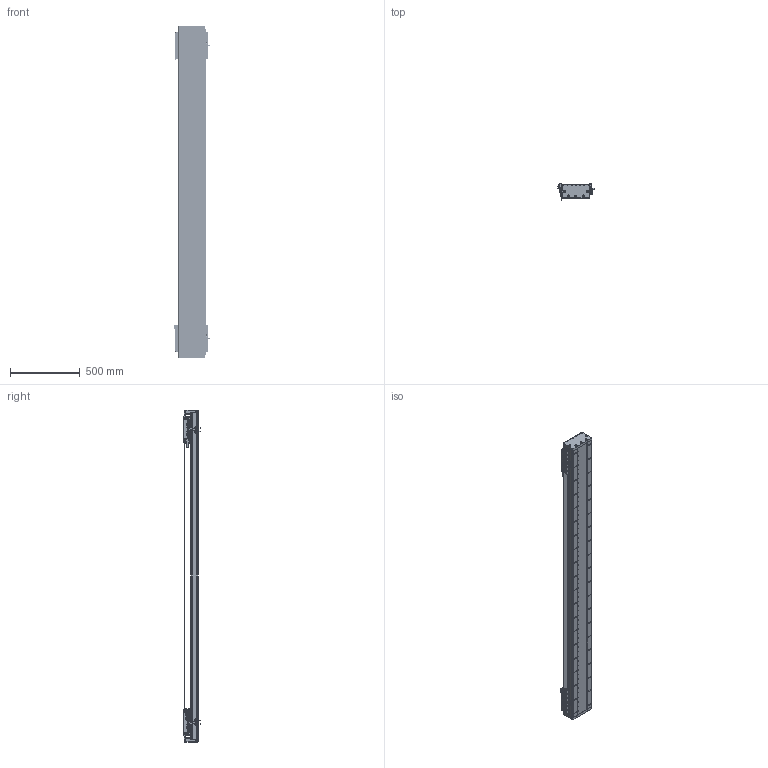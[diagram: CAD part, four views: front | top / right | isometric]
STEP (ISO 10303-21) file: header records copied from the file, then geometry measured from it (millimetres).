
FILE_DESCRIPTION (( 'STEP AP203' ), '1' );
FILE_NAME ('DA-C195-2-C2-T1880-C010-0.2 眻盄萇儂.STEP', '2025-08-14T02:08:00', ( '' ), ( '' ), 'SwSTEP 2.0', 'SolidWorks 2019', '' );
FILE_SCHEMA (( 'CONFIG_CONTROL_DESIGN' ));
Length unit declared in the file: millimetre
Products named in the file (19): DA95-HXJ-00 遣喳砎蝶-1; IU-CU195-L 菁釱絳寢-1; MS200 棠掑喜S315-T1740-1; LMT黍杅芛-1; CU195-C2賑輸-俋楷-1; DA195詩湍裔啣-1; DKW-KGZ-ZJ-00 中间光电开关支架-1; DA195詩湍菜輸-1; DA165-GYP-00 光电感应片(默认)-1; IU-CU195-L-00 菁釱(L2340); DA-C195-GD-DB-H-00 傷啣-1; PM-T45ㄗ侂狟ㄘ-1; 葩璃 DA95-GT-T-00-1; DKW168-HXJ-ZJ-00 笢潔滅袉砎蝶-1; DA195詩湍郪璃-1; DA-C195-2-C2-T1880-C010-0.2 眻盄萇儂; PM-Y65嫖萇羲壽郪璃-1; DA195詩湍嶺輸-1; DKW-GYP-ZJ-00 笢潔嫖萇覜茼え-1
Assembly tree (37 placements, depth 3):
  DA-C195-2-C2-T1880-C010-0.2 眻盄萇儂
    DA195詩湍郪璃-1
      DA195詩湍菜輸-1  x2
      DA195詩湍裔啣-1
      DA195詩湍嶺輸-1  x2
      DA95-HXJ-00 遣喳砎蝶-1  x8
      DA-C195-GD-DB-H-00 傷啣-1  x2
    IU-CU195-L 菁釱絳寢-1
      IU-CU195-L-00 菁釱(L2340)
      葩璃 DA95-GT-T-00-1  x4
    LMT黍杅芛-1  x2
    MS200 棠掑喜S315-T1740-1
    PM-T45ㄗ侂狟ㄘ-1  x4
    DA165-GYP-00 光电感应片(默认)-1  x2
    PM-Y65嫖萇羲壽郪璃-1
    DKW168-HXJ-ZJ-00 笢潔滅袉砎蝶-1
    DKW-GYP-ZJ-00 笢潔嫖萇覜茼え-1
    DKW-KGZ-ZJ-00 中间光电开关支架-1
    CU195-C2賑輸-俋楷-1  x2
Bounding box: 258.2 x 115.45 x 2380 mm (x, y, z)
Volume: 15049467 mm3; surface area: 4347104.6 mm2
Topology: 114 solids, 242 shells, 6917 faces, 18239 edges, 11329 vertices
Faces by surface type: cylinder 3212, plane 2621, cone 916, torus 88, sphere 72, bspline 8
Entity records: 146323 total; most frequent: CARTESIAN_POINT 38627, ORIENTED_EDGE 22310, DIRECTION 21554, EDGE_CURVE 11155, AXIS2_PLACEMENT_3D 7929, VERTEX_POINT 7216, VECTOR 5696, LINE 5696
